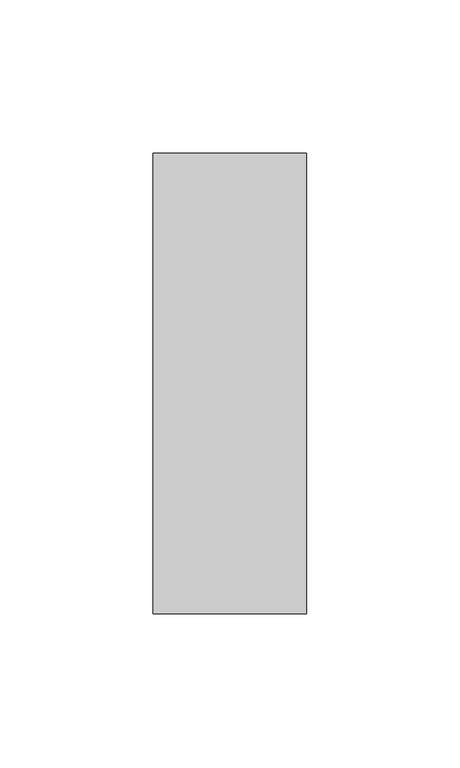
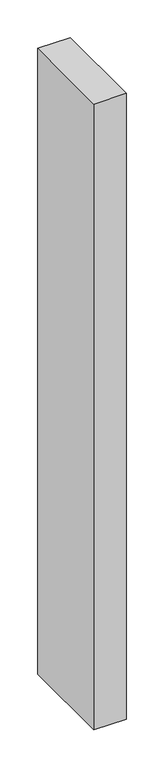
"""IFC4 building model written with IfcOpenShell, lengths in millimetres: member geometry, Прямоугольный импост : 50 x 150 мм."""

from ifc_helpers import new_model, si_unit, origin, place, context, project, spatial, faceted_brep, source, transform, mapped, element, save


def member_d3fdbbac(model_context):
    return source(origin(), model_context, "Body", "Brep", [
        faceted_brep([(25.0, 75.0, 0.0), (-25.0, 75.0, 0.0), (-25.0, -75.0, 0.0), (25.0, -75.0, 0.0), (25.0, 75.0, -1018.6019209), (-25.0, 75.0, -1018.3321391), (-25.0, -75.0, -1017.5375875), (25.0, -75.0, -1017.8073693)], [[[0, 1, 2, 3]], [[1, 0, 4, 5]], [[2, 1, 5, 6]], [[3, 2, 6, 7]], [[0, 3, 7, 4]], [[4, 7, 6, 5]]]),
    ])


if __name__ == "__main__":
    model = new_model("IFC4")
    model_context = context("Model", 3, world=origin())
    ifc_project = project(units=[si_unit("LENGTHUNIT", "METRE", prefix="MILLI")], contexts=[model_context])
    site = spatial("IfcSite", under=ifc_project)
    building = spatial("IfcBuilding", under=site)
    placement = place(None, origin())
    member_shape = member_d3fdbbac(model_context)
    element("IfcMember", 1, ObjectType="Прямоугольный импост : 50 x 150 мм", at=placement, inside=building, context=model_context, shape_type="MappedRepresentation", body=[
        mapped(member_shape, transform((0.0, 0.0, 0.0), x_axis=(1.0, 0.0, 0.0), y_axis=(0.0, 1.0, 0.0), z_axis=(0.0, 0.0, 1.0))),
    ])
    save(model, "model.ifc")
